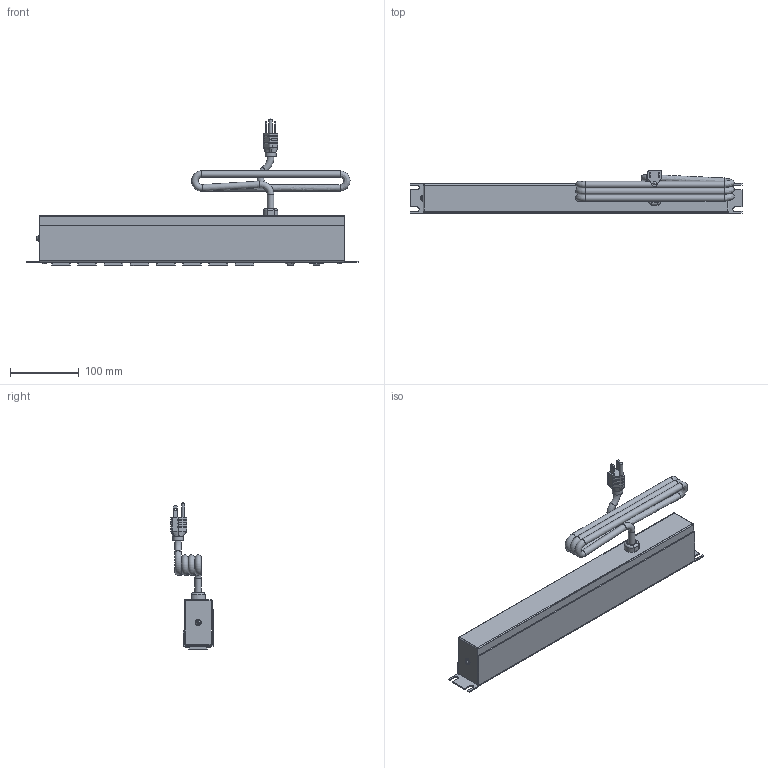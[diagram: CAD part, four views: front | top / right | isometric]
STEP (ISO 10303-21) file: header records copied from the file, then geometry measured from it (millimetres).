
FILE_DESCRIPTION((''),'2;1');
FILE_NAME('E:\Dutton\Manufacturing\drawings\Updated 2009\POWER BARS\1582 series\STEP''s\1582H8A1BK.stp','2010-01-06T11:46:05',('tfoster'),(''),'Autodesk Inventor 2010','Autodesk Inventor 2010','');
FILE_SCHEMA(('AUTOMOTIVE_DESIGN { 1 0 10303 214 1 1 1 1 }'));
Products named in the file (12): 1582H8A1BK; 1582H8 Front plate; 1582 Back Plate; #6 - 0.375 Type A screw; Reset Switch; Power Switch Assembly; Power Switch; Power Switch pt; Cored 2; toothwasher; round head 1-way 8-32 x 0.5 screw; Receptacle
Assembly tree (21 placements, depth 3):
  1582H8A1BK
    1582H8 Front plate
    1582 Back Plate
    #6 - 0.375 Type A screw  x4
    Reset Switch
    Power Switch Assembly
      Power Switch
      Power Switch pt
    Cored 2
    toothwasher
    round head 1-way 8-32 x 0.5 screw
    Receptacle  x8
Bounding box: 482.6 x 61.48 x 214.29 mm (x, y, z)
Volume: 373733.5 mm3; surface area: 309490.7 mm2
Topology: 20 solids, 20 shells, 1027 faces, 2943 edges, 1953 vertices
Faces by surface type: plane 673, cylinder 189, bspline 87, sphere 38, cone 25, torus 15
Full cylindrical faces by diameter (mm): 1 x2, 1.803 x3, 1.905 x2, 2.286 x1, 2.997 x4, 3 x2, 4.3 x1, 4.775 x1, 4.801 x1, 5.563 x4, 7.849 x1, 9.5 x5, 11 x1, 15.621 x1
Entity records: 23209 total; most frequent: CARTESIAN_POINT 7925, ORIENTED_EDGE 3294, DIRECTION 2764, EDGE_CURVE 1647, VERTEX_POINT 1156, VECTOR 1062, LINE 1062, AXIS2_PLACEMENT_3D 851
